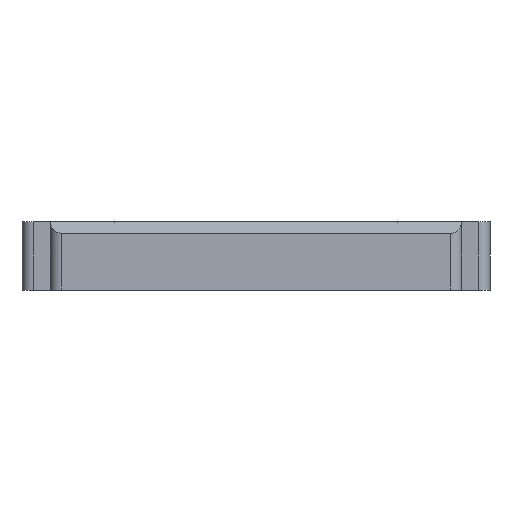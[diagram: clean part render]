
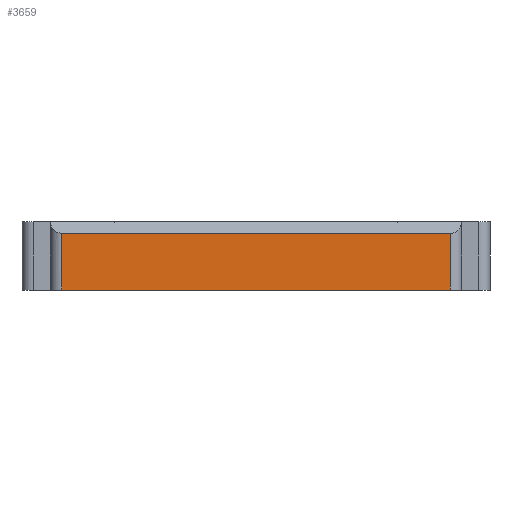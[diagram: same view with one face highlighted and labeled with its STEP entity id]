
A CAD part, left-side view. The second image highlights one B-rep face of the part: STEP entity #3659.
In plain terms, the highlighted planar face has unit normal (-1, 0, 0).
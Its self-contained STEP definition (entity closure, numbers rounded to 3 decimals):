
#160=PLANE('',#4042);
#216=LINE('',#5536,#489);
#335=LINE('',#6407,#608);
#337=LINE('',#6413,#610);
#338=LINE('',#6414,#611);
#489=VECTOR('',#4340,10.);
#608=VECTOR('',#4881,10.);
#610=VECTOR('',#4887,10.);
#611=VECTOR('',#4888,10.);
#950=FACE_OUTER_BOUND('',#1187,.T.);
#1187=EDGE_LOOP('',(#2949,#2950,#2951,#2952));
#1597=VERTEX_POINT('',#5498);
#1615=VERTEX_POINT('',#5534);
#1788=VERTEX_POINT('',#6406);
#1790=VERTEX_POINT('',#6412);
#1967=EDGE_CURVE('',#1615,#1597,#216,.T.);
#2225=EDGE_CURVE('',#1597,#1788,#335,.T.);
#2228=EDGE_CURVE('',#1790,#1615,#337,.T.);
#2229=EDGE_CURVE('',#1788,#1790,#338,.T.);
#2949=ORIENTED_EDGE('',*,*,#2225,.F.);
#2950=ORIENTED_EDGE('',*,*,#1967,.F.);
#2951=ORIENTED_EDGE('',*,*,#2228,.F.);
#2952=ORIENTED_EDGE('',*,*,#2229,.F.);
#3659=ADVANCED_FACE('',(#950),#160,.T.);
#4042=AXIS2_PLACEMENT_3D('',#6411,#4885,#4886);
#4340=DIRECTION('',(0.,1.,0.));
#4881=DIRECTION('',(0.,0.,1.));
#4885=DIRECTION('center_axis',(-1.,0.,0.));
#4886=DIRECTION('ref_axis',(0.,1.,0.));
#4887=DIRECTION('',(0.,0.,-1.));
#4888=DIRECTION('',(0.,-1.,0.));
#5498=CARTESIAN_POINT('',(-72.5,68.5,-24.));
#5534=CARTESIAN_POINT('',(-72.5,-68.5,-24.));
#5536=CARTESIAN_POINT('',(-72.5,72.5,-24.));
#6406=CARTESIAN_POINT('',(-72.5,68.5,-4.));
#6407=CARTESIAN_POINT('',(-72.5,68.5,-6.25));
#6411=CARTESIAN_POINT('Origin',(-72.5,-72.5,0.));
#6412=CARTESIAN_POINT('',(-72.5,-68.5,-4.));
#6413=CARTESIAN_POINT('',(-72.5,-68.5,-6.5));
#6414=CARTESIAN_POINT('',(-72.5,-36.25,-4.));
